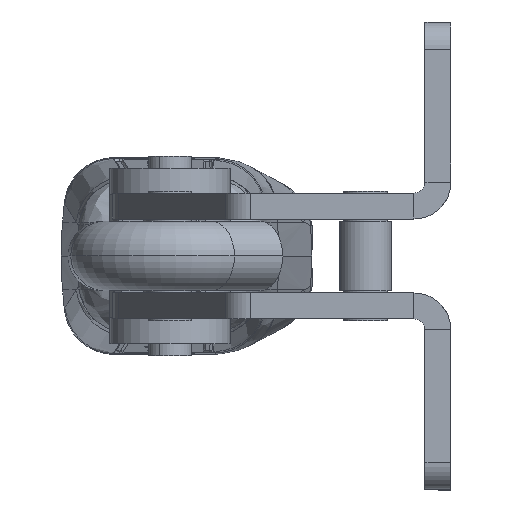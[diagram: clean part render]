
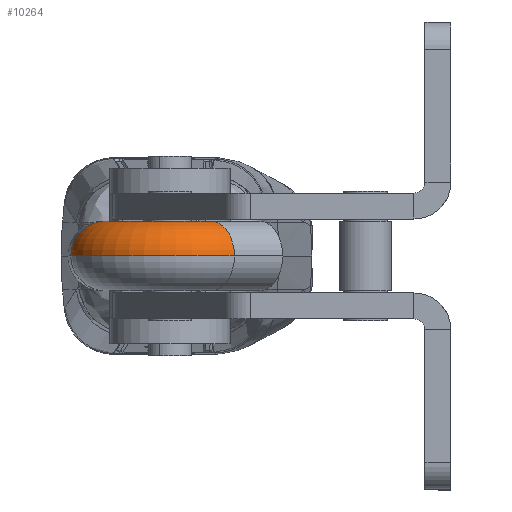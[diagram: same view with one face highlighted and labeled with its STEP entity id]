
A CAD part, left-side view. The second image highlights one B-rep face of the part: STEP entity #10264.
In plain terms, the highlighted toroidal (fillet/blend) face has major radius 11.65 mm and minor radius 6.35 mm.
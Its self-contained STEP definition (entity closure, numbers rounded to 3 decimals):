
#423 = VERTEX_POINT ( 'NONE', #9164 ) ;
#839 = DIRECTION ( 'NONE',  ( 0., 0., 1. ) ) ;
#2026 = EDGE_CURVE ( 'NONE', #423, #4099, #14833, .T. ) ;
#2477 = DIRECTION ( 'NONE',  ( 0., 0., 1. ) ) ;
#3752 = DIRECTION ( 'NONE',  ( 0., 0., 1. ) ) ;
#4088 = FACE_OUTER_BOUND ( 'NONE', #15121, .T. ) ;
#4099 = VERTEX_POINT ( 'NONE', #22463 ) ;
#4125 = DIRECTION ( 'NONE',  ( 0.148, -0.989, 0. ) ) ;
#4243 = DIRECTION ( 'NONE',  ( 1., 0., 0. ) ) ;
#4648 = VERTEX_POINT ( 'NONE', #21341 ) ;
#4827 = ORIENTED_EDGE ( 'NONE', *, *, #2026, .F. ) ;
#5525 = DIRECTION ( 'NONE',  ( 0.649, 0.76, 0. ) ) ;
#5811 = EDGE_CURVE ( 'NONE', #423, #11698, #16400, .T. ) ;
#6030 = ORIENTED_EDGE ( 'NONE', *, *, #15507, .F. ) ;
#7600 = AXIS2_PLACEMENT_3D ( 'NONE', #11385, #839, #13177 ) ;
#8915 = CIRCLE ( 'NONE', #11841, 5.3 ) ;
#9164 = CARTESIAN_POINT ( 'NONE',  ( -12.877, 192.661, 0. ) ) ;
#9227 = ORIENTED_EDGE ( 'NONE', *, *, #18461, .T. ) ;
#10264 = ADVANCED_FACE ( 'NONE', ( #4088 ), #17627, .T. ) ;
#11385 = CARTESIAN_POINT ( 'NONE',  ( -30.679, 190., 0. ) ) ;
#11698 = VERTEX_POINT ( 'NONE', #20911 ) ;
#11841 = AXIS2_PLACEMENT_3D ( 'NONE', #14305, #3752, #16094 ) ;
#13024 = CARTESIAN_POINT ( 'NONE',  ( -30.679, 190., 0. ) ) ;
#13177 = DIRECTION ( 'NONE',  ( 1., 0., 0. ) ) ;
#14305 = CARTESIAN_POINT ( 'NONE',  ( -30.679, 190., 0. ) ) ;
#14677 = CARTESIAN_POINT ( 'NONE',  ( -19.157, 191.722, 0. ) ) ;
#14833 = CIRCLE ( 'NONE', #17309, 6.35 ) ;
#15121 = EDGE_LOOP ( 'NONE', ( #4827, #17616, #9227, #6030 ) ) ;
#15507 = EDGE_CURVE ( 'NONE', #4099, #4648, #8915, .T. ) ;
#16094 = DIRECTION ( 'NONE',  ( 1., 0., 0. ) ) ;
#16123 = CARTESIAN_POINT ( 'NONE',  ( -39.538, 197.566, 0. ) ) ;
#16400 = CIRCLE ( 'NONE', #7600, 18. ) ;
#16483 = DIRECTION ( 'NONE',  ( -0.989, -0.148, 0. ) ) ;
#16926 = AXIS2_PLACEMENT_3D ( 'NONE', #16123, #5525, #17896 ) ;
#17309 = AXIS2_PLACEMENT_3D ( 'NONE', #14677, #4125, #16483 ) ;
#17616 = ORIENTED_EDGE ( 'NONE', *, *, #5811, .T. ) ;
#17627 = TOROIDAL_SURFACE ( 'NONE', #18717, 11.65, 6.35 ) ;
#17896 = DIRECTION ( 'NONE',  ( 0.76, -0.649, 0. ) ) ;
#18461 = EDGE_CURVE ( 'NONE', #11698, #4648, #19636, .T. ) ;
#18717 = AXIS2_PLACEMENT_3D ( 'NONE', #13024, #2477, #4243 ) ;
#19636 = CIRCLE ( 'NONE', #16926, 6.35 ) ;
#20911 = CARTESIAN_POINT ( 'NONE',  ( -44.366, 201.69, 0. ) ) ;
#21341 = CARTESIAN_POINT ( 'NONE',  ( -34.709, 193.442, 0. ) ) ;
#22463 = CARTESIAN_POINT ( 'NONE',  ( -25.437, 190.783, 0. ) ) ;
